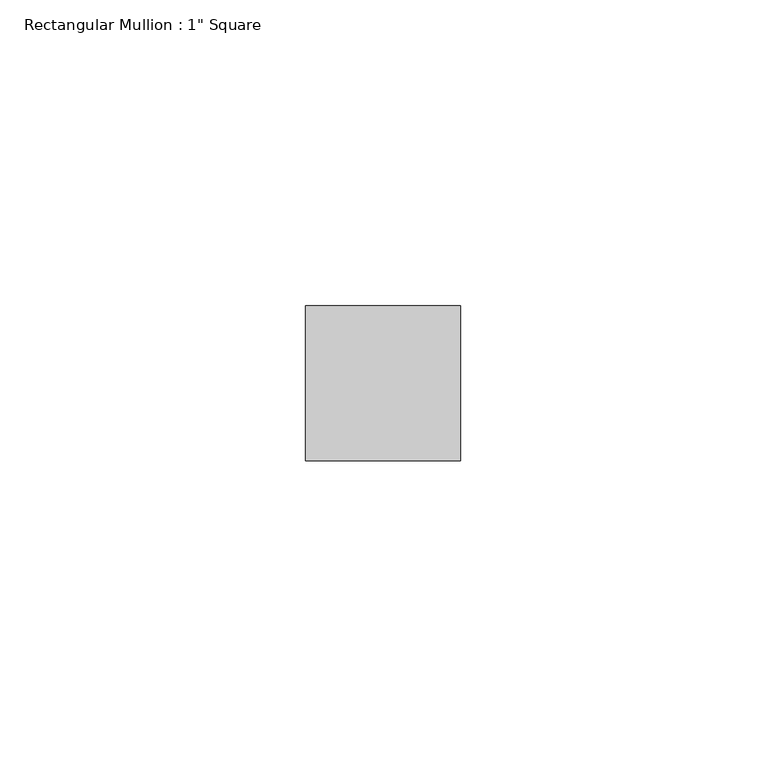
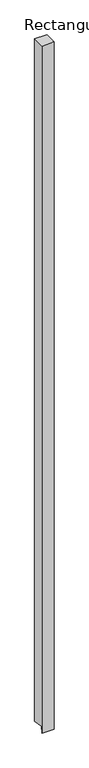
"""IFC4 building model written with IfcOpenShell, lengths in millimetres: member geometry."""

from ifc_helpers import new_model, si_unit, frame, origin, place, context, project, spatial, polyline, outline, extrude, source, transform, mapped, element, save


def member_8003fc1d(model_context):
    return source(origin(), model_context, "Body", "SweptSolid", [
        extrude(outline(polyline([(-12.7, 0.0), (12.7, 0.0), (12.7, -1487.3996528), (-11.0128906, -1484.4121094), (-12.7, -1497.803125), (-12.7, 0.0)])), frame((-25.4, 0.0, 0.0), z_axis=(1.0, 0.0, 0.0), x_axis=(0.0, 1.0, 0.0)), (0.0, 0.0, 1.0), 25.4),
    ])


if __name__ == "__main__":
    model = new_model("IFC4")
    model_context = context("Model", 3, world=origin())
    ifc_project = project(units=[si_unit("LENGTHUNIT", "METRE", prefix="MILLI")], contexts=[model_context])
    site = spatial("IfcSite", under=ifc_project)
    building = spatial("IfcBuilding", under=site)
    placement = place(None, origin())
    member_shape = member_8003fc1d(model_context)
    element("IfcMember", 1, ObjectType="Rectangular Mullion : 1\" Square", at=placement, inside=building, context=model_context, shape_type="MappedRepresentation", body=[
        mapped(member_shape, transform((0.0, 0.0, 0.0), x_axis=(1.0, 0.0, 0.0), y_axis=(0.0, 1.0, 0.0), z_axis=(0.0, 0.0, 1.0))),
    ])
    save(model, "model.ifc")
